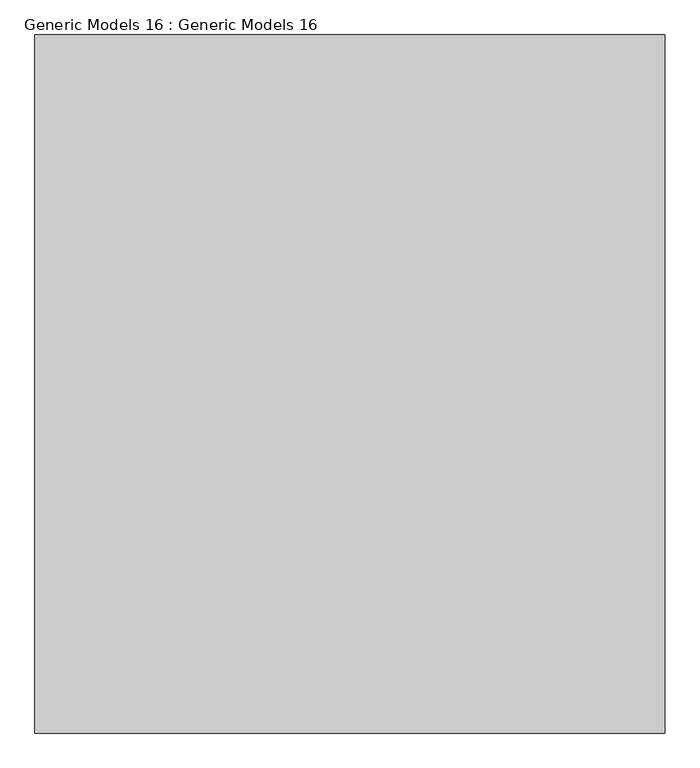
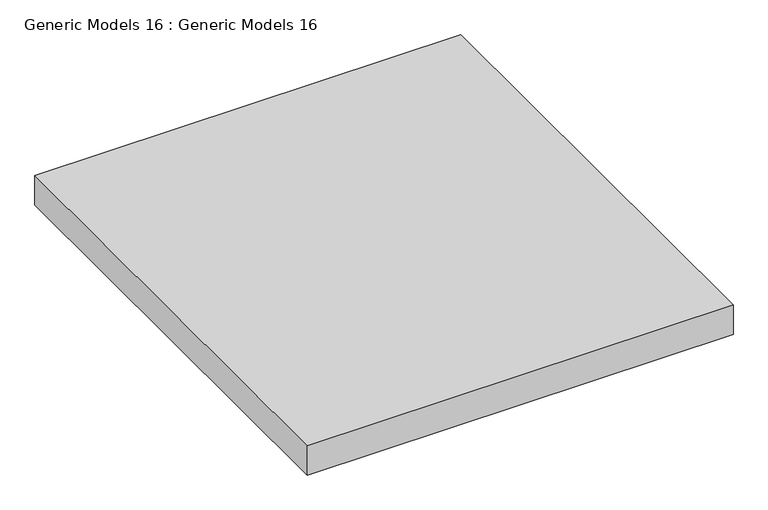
"""IFC4 building model written with IfcOpenShell, lengths in millimetres: proxy geometry, Generic Models 16 : Generic Models 16."""

from ifc_helpers import new_model, si_unit, frame, origin, place, context, project, spatial, polyline, outline, extrude, source, transform, mapped, element, save


def generic_models_16_generic_models_16_f0286e52(model_context):
    return source(origin(), model_context, "Body", "SweptSolid", [
        extrude(outline(polyline([(-4200.0, -4196.3905645), (-5763.3274035, -4196.3905645), (-5763.3274035, -2464.8895121), (-4200.0, -2464.8895121), (-4200.0, -4196.3905645)])), frame((0.0, 0.0, 11887.1592479), z_axis=(0.0, 0.0, 1.0), x_axis=(1.0, 0.0, 0.0)), (0.0, 0.0, 1.0), 112.8407521),
    ])


if __name__ == "__main__":
    model = new_model("IFC4")
    model_context = context("Model", 3, world=origin())
    ifc_project = project(units=[si_unit("LENGTHUNIT", "METRE", prefix="MILLI")], contexts=[model_context])
    site = spatial("IfcSite", under=ifc_project)
    building = spatial("IfcBuilding", under=site)
    placement = place(None, origin())
    generic_models_16_generic_models_16_shape = generic_models_16_generic_models_16_f0286e52(model_context)
    element("IfcBuildingElementProxy", 1, Name="Generic Models 16 : Generic Models 16", ObjectType="Generic Models 16 : Generic Models 16", at=placement, inside=building, context=model_context, shape_type="MappedRepresentation", body=[
        mapped(generic_models_16_generic_models_16_shape, transform((0.0, 0.0, 0.0), x_axis=(1.0, 0.0, 0.0), y_axis=(0.0, 1.0, 0.0), z_axis=(0.0, 0.0, 1.0))),
    ])
    save(model, "model.ifc")
